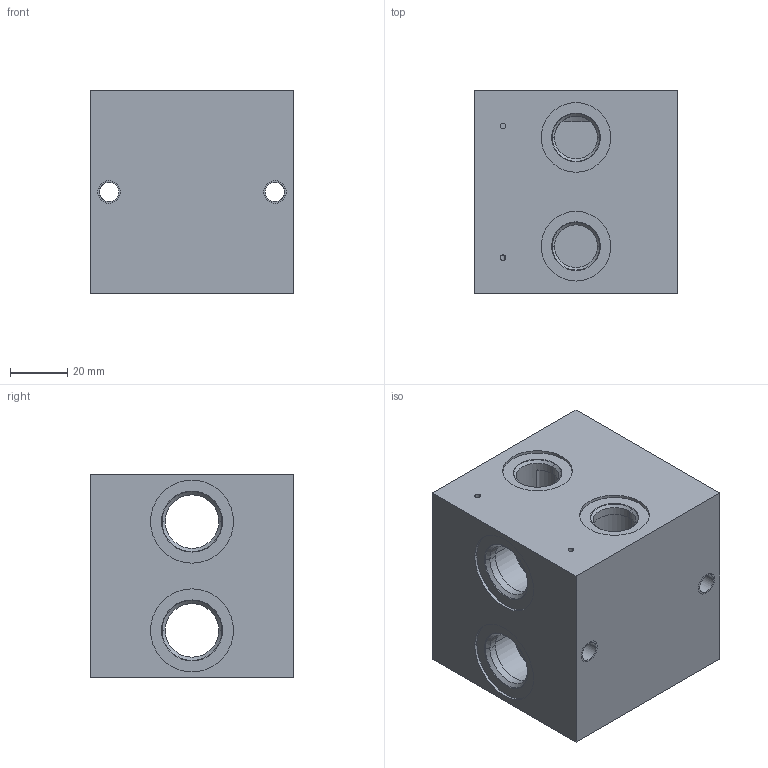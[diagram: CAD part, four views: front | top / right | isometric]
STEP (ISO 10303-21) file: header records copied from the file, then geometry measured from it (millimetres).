
FILE_DESCRIPTION((''),'2;1');
FILE_NAME('27562600','2015-11-27T',('Ahcz.brigadnik05'),(''),'PRO/ENGINEER BY PARAMETRIC TECHNOLOGY CORPORATION, 2015110','PRO/ENGINEER BY PARAMETRIC TECHNOLOGY CORPORATION, 2015110','');
FILE_SCHEMA(('AUTOMOTIVE_DESIGN { 1 0 10303 214 1 1 1 1 }'));
Length unit declared in the file: millimetre
Products named in the file (1): 27562600
Bounding box: 71 x 71 x 71 mm (x, y, z)
Volume: 136042.1 mm3; surface area: 60710.4 mm2
Topology: 1 solids, 17 shells, 151 faces, 560 edges, 503 vertices
Faces by surface type: cylinder 94, plane 38, cone 19
Entity records: 8110 total; most frequent: CARTESIAN_POINT 1368, DIRECTION 1073, ORIENTED_EDGE 760, PRESENTATION_STYLE_ASSIGNMENT 594, STYLED_ITEM 594, CURVE_STYLE 571, EDGE_CURVE 412, AXIS2_PLACEMENT_3D 386
